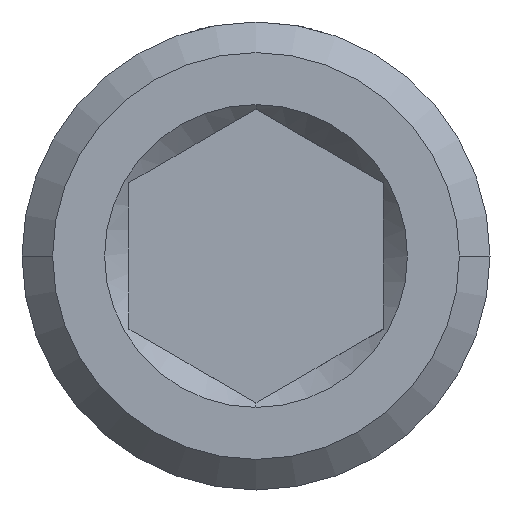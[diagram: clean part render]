
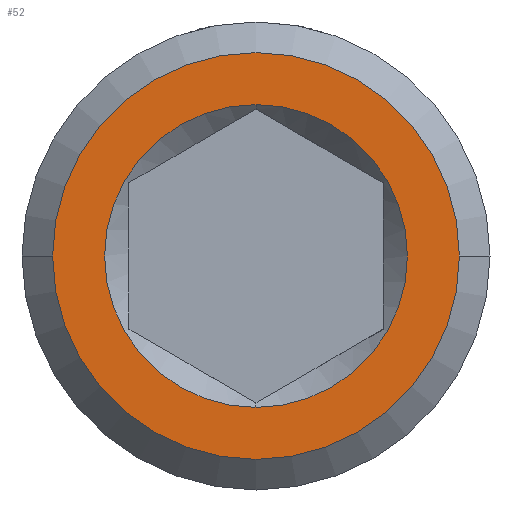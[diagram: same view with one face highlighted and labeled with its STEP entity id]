
A CAD part, front view. The second image highlights one B-rep face of the part: STEP entity #52.
In plain terms, the highlighted planar face has unit normal (0, -1, 0).
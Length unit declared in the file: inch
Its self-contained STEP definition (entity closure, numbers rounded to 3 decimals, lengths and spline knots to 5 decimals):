
#24 = CARTESIAN_POINT ( 'NONE',  ( 0., 0., 0. ) ) ;
#52 = ADVANCED_FACE ( 'NONE', ( #1249, #1845 ), #53, .T. ) ;
#53 = PLANE ( 'NONE',  #1306 ) ;
#109 = DIRECTION ( 'NONE',  ( 0., 0., -1. ) ) ;
#171 = EDGE_CURVE ( 'NONE', #1919, #1236, #1392, .T. ) ;
#179 = CARTESIAN_POINT ( 'NONE',  ( 0., 0., 0.335 ) ) ;
#219 = DIRECTION ( 'NONE',  ( 0., 1., 0. ) ) ;
#255 = EDGE_CURVE ( 'NONE', #1236, #1919, #2224, .T. ) ;
#260 = AXIS2_PLACEMENT_3D ( 'NONE', #1318, #530, #2108 ) ;
#269 = DIRECTION ( 'NONE',  ( 0., 0., -1. ) ) ;
#284 = VERTEX_POINT ( 'NONE', #1731 ) ;
#304 = AXIS2_PLACEMENT_3D ( 'NONE', #24, #219, #828 ) ;
#530 = DIRECTION ( 'NONE',  ( 0., 1., 0. ) ) ;
#540 = DIRECTION ( 'NONE',  ( -1., 0., 0. ) ) ;
#554 = AXIS2_PLACEMENT_3D ( 'NONE', #1704, #1304, #109 ) ;
#565 = CIRCLE ( 'NONE', #304, 0.45 ) ;
#619 = CARTESIAN_POINT ( 'NONE',  ( 0., 0., -0.335 ) ) ;
#734 = EDGE_LOOP ( 'NONE', ( #905, #2337 ) ) ;
#828 = DIRECTION ( 'NONE',  ( -1., 0., 0. ) ) ;
#840 = EDGE_CURVE ( 'NONE', #2513, #284, #2354, .T. ) ;
#905 = ORIENTED_EDGE ( 'NONE', *, *, #171, .T. ) ;
#1236 = VERTEX_POINT ( 'NONE', #179 ) ;
#1249 = FACE_BOUND ( 'NONE', #734, .T. ) ;
#1272 = CARTESIAN_POINT ( 'NONE',  ( 0., 0., -0.28 ) ) ;
#1304 = DIRECTION ( 'NONE',  ( 0., 1., 0. ) ) ;
#1306 = AXIS2_PLACEMENT_3D ( 'NONE', #1272, #2062, #269 ) ;
#1318 = CARTESIAN_POINT ( 'NONE',  ( 0., 0., 0. ) ) ;
#1392 = CIRCLE ( 'NONE', #554, 0.335 ) ;
#1426 = EDGE_LOOP ( 'NONE', ( #1760, #1883 ) ) ;
#1512 = AXIS2_PLACEMENT_3D ( 'NONE', #2143, #2532, #540 ) ;
#1596 = EDGE_CURVE ( 'NONE', #284, #2513, #565, .T. ) ;
#1704 = CARTESIAN_POINT ( 'NONE',  ( 0., 0., 0. ) ) ;
#1731 = CARTESIAN_POINT ( 'NONE',  ( 0.45, 0., 0. ) ) ;
#1760 = ORIENTED_EDGE ( 'NONE', *, *, #840, .F. ) ;
#1845 = FACE_OUTER_BOUND ( 'NONE', #1426, .T. ) ;
#1883 = ORIENTED_EDGE ( 'NONE', *, *, #1596, .F. ) ;
#1919 = VERTEX_POINT ( 'NONE', #619 ) ;
#1954 = CARTESIAN_POINT ( 'NONE',  ( -0.45, 0., 0. ) ) ;
#2062 = DIRECTION ( 'NONE',  ( 0., -1., 0. ) ) ;
#2108 = DIRECTION ( 'NONE',  ( 0., 0., -1. ) ) ;
#2143 = CARTESIAN_POINT ( 'NONE',  ( 0., 0., 0. ) ) ;
#2224 = CIRCLE ( 'NONE', #260, 0.335 ) ;
#2337 = ORIENTED_EDGE ( 'NONE', *, *, #255, .T. ) ;
#2354 = CIRCLE ( 'NONE', #1512, 0.45 ) ;
#2513 = VERTEX_POINT ( 'NONE', #1954 ) ;
#2532 = DIRECTION ( 'NONE',  ( 0., 1., 0. ) ) ;
